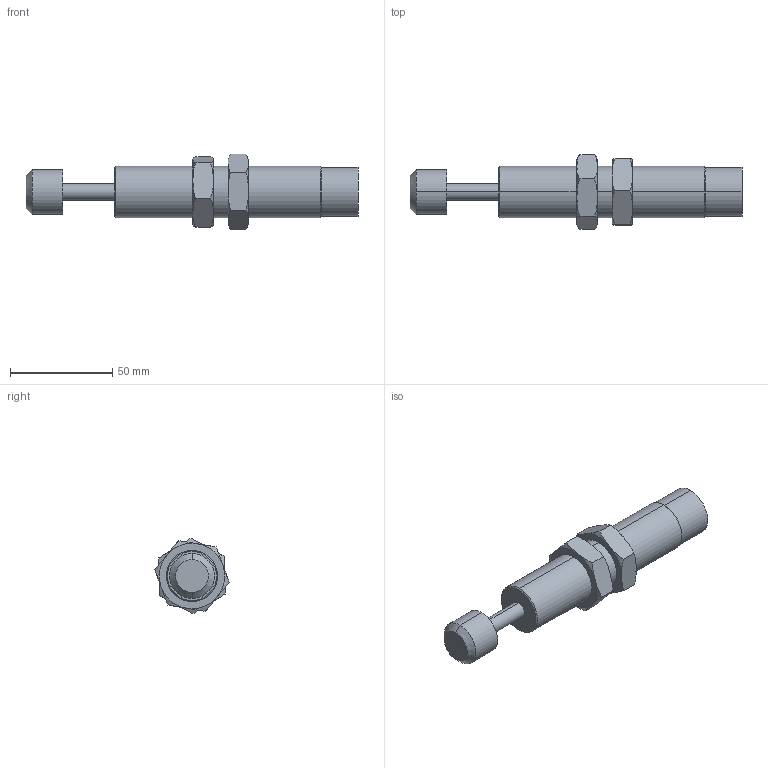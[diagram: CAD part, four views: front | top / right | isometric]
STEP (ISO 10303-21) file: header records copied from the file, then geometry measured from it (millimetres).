
FILE_DESCRIPTION (( 'STEP AP203' ), '1' );
FILE_NAME ('FSA-2525CD.STEP', '2016-03-17T07:46:19', ( 'Sam Lin' ), ( '' ), 'SwSTEP 2.0', 'SolidWorks 2013', '' );
FILE_SCHEMA (( 'CONFIG_CONTROL_DESIGN' ));
Length unit declared in the file: metre
Products named in the file (3): FSA-2525CD_1; M25x1.5-10mm_1; FSA-2525CD
Assembly tree (3 placements, depth 2):
  FSA-2525CD
    FSA-2525CD_1
    M25x1.5-10mm_1  x2
Bounding box: 162.5 x 36.43 x 36.94 mm (x, y, z)
Volume: 73363 mm3; surface area: 17873.5 mm2
Topology: 3 solids, 3 shells, 62 faces, 130 edges, 76 vertices
Faces by surface type: bspline 24, plane 20, cylinder 12, cone 6
Entity records: 1695 total; most frequent: CARTESIAN_POINT 632, ORIENTED_EDGE 164, DIRECTION 138, EDGE_CURVE 82, AXIS2_PLACEMENT_3D 58, VERTEX_POINT 48, EDGE_LOOP 44, ADVANCED_FACE 40
